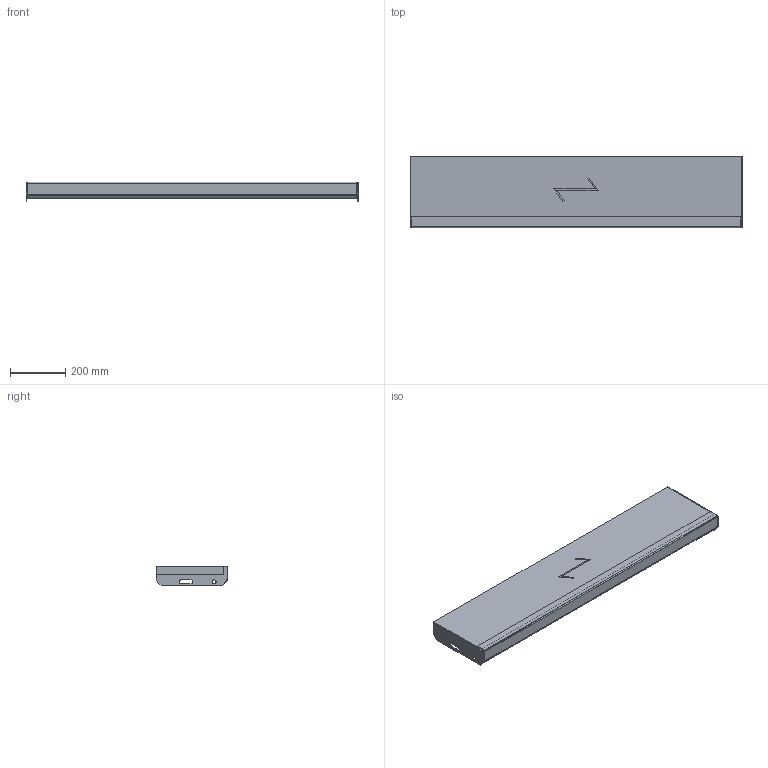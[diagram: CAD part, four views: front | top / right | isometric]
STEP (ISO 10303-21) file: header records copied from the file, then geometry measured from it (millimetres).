
FILE_DESCRIPTION (( 'STEP AP203' ), '1' );
FILE_NAME ('StegTH6-S-nya_steget-1200x260.STEP', '2020-03-04T07:45:41', ( '' ), ( '' ), 'SwSTEP 2.0', 'SolidWorks 2019', '' );
FILE_SCHEMA (( 'CONFIG_CONTROL_DESIGN' ));
Length unit declared in the file: millimetre
Products named in the file (5): SW0000039574; SW0000038987; SW0000039248; SW0000038702; StegTH6-S-nya_steget-1200x260
Assembly tree (5 placements, depth 3):
  StegTH6-S-nya_steget-1200x260
    SW0000039574
      SW0000038987
      SW0000039248
      SW0000038702  x2
Bounding box: 1200 x 260 x 72 mm (x, y, z)
Volume: 9040186 mm3; surface area: 978562.4 mm2
Topology: 4 solids, 4 shells, 67 faces, 158 edges, 100 vertices
Faces by surface type: plane 51, cylinder 16
Entity records: 2002 total; most frequent: DIRECTION 261, CARTESIAN_POINT 254, ORIENTED_EDGE 238, EDGE_CURVE 119, LINE 99, VECTOR 99, AXIS2_PLACEMENT_3D 81, VERTEX_POINT 74
